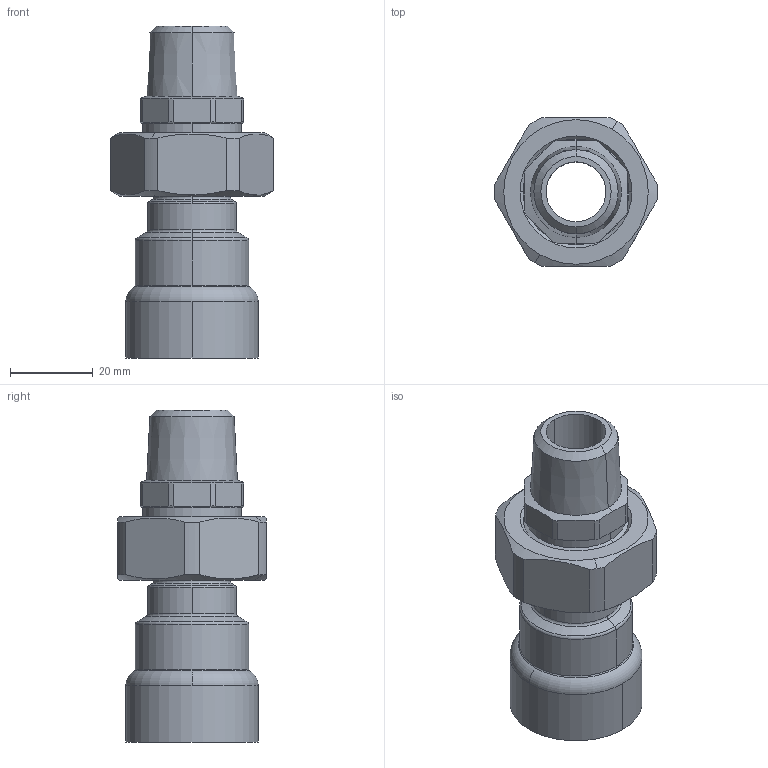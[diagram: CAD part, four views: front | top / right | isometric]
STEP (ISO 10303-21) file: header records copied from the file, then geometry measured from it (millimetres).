
FILE_DESCRIPTION(('Creo Elements/Direct Modeling STEP Export'),'2;1');
FILE_NAME('C9435_1-2.stp','2020-07-20T 9:29:13',(''),(''),'PTC Creo Elements/Direct Modeling STEP processor for AP214 (Solid Model)','PTC Creo Elements/Direct Modeling 19.0C 15-Aug-2015 (C) Parametric Technology GmbH','');
FILE_SCHEMA(('AUTOMOTIVE_DESIGN { 1 0 10303 214 1 1 1 1 }'));
Length unit declared in the file: millimetre
Products named in the file (2): C9435_1-2
Assembly tree (1 placements, depth 2):
  C9435_1-2
    C9435_1-2
Bounding box: 39.58 x 36 x 80.4 mm (x, y, z)
Volume: 31820.9 mm3; surface area: 14049.7 mm2
Topology: 1 solids, 1 shells, 79 faces, 205 edges, 131 vertices
Faces by surface type: cylinder 28, cone 20, plane 19, torus 12
Entity records: 3915 total; most frequent: CARTESIAN_POINT 2037, ORIENTED_EDGE 410, DIRECTION 350, EDGE_CURVE 205, AXIS2_PLACEMENT_3D 144, VERTEX_POINT 131, EDGE_LOOP 84, FACE_OUTER_BOUND 79
